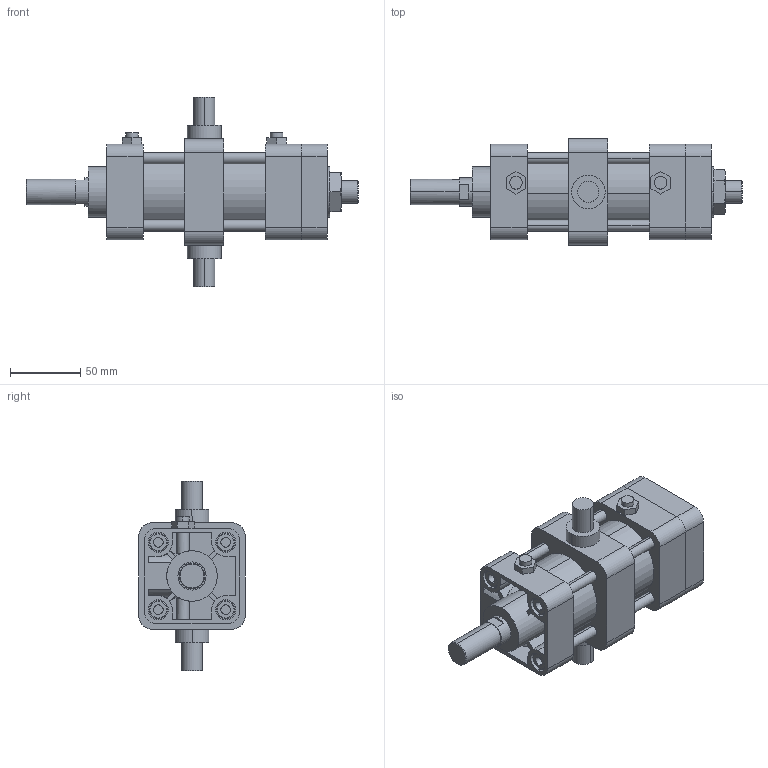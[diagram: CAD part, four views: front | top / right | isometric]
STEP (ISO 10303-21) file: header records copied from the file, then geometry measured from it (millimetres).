
FILE_DESCRIPTION (( 'STEP AP203' ), '1' );
FILE_NAME ('KGA2-50#-50-T.STEP', '2016-04-14T07:40:32', ( '' ), ( '' ), 'SwSTEP 2.0', 'SolidWorks 2014', '' );
FILE_SCHEMA (( 'CONFIG_CONTROL_DESIGN' ));
Length unit declared in the file: millimetre
Products named in the file (8): K-50-T; KGA2-50#-50-T; KGA2-50-After; KGLH2-50-50; KG2-50-After
Assembly tree (17 placements, depth 2):
  KGA2-50#-50-T
    KG2-50-After
    KGLH2-50-50
    (unnamed)
    (unnamed)  x4
    (unnamed)  x8
    K-50-T
    KGA2-50-After
Bounding box: 236.5 x 76 x 135 mm (x, y, z)
Volume: 623984.3 mm3; surface area: 141230.4 mm2
Topology: 17 solids, 21 shells, 396 faces, 924 edges, 592 vertices
Faces by surface type: plane 166, cylinder 164, torus 38, cone 28
Entity records: 10444 total; most frequent: CARTESIAN_POINT 1960, DIRECTION 1620, ORIENTED_EDGE 1468, EDGE_CURVE 734, AXIS2_PLACEMENT_3D 614, VERTEX_POINT 482, LINE 392, VECTOR 392
